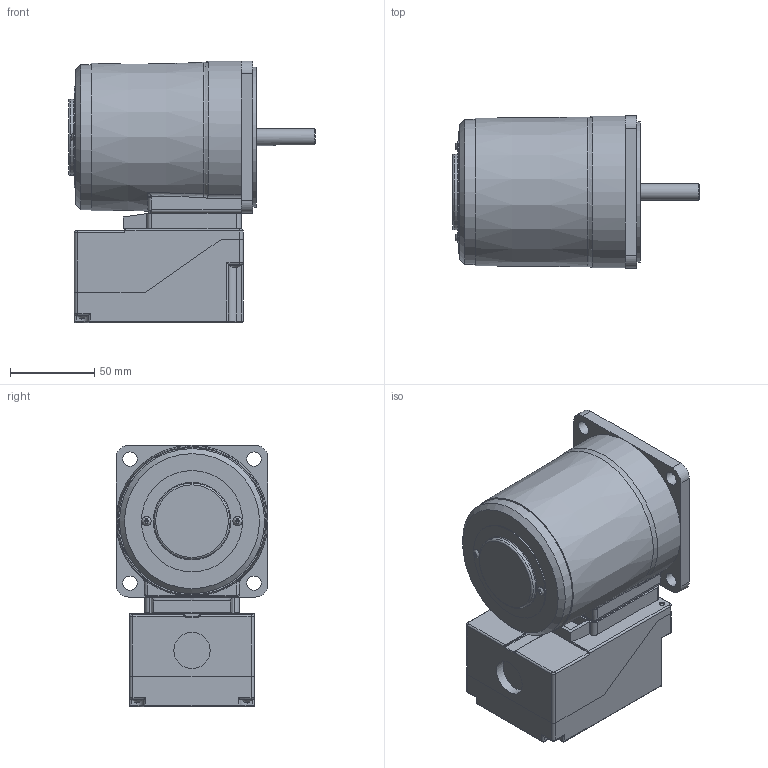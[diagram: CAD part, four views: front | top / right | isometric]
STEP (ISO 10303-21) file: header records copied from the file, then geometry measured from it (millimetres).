
FILE_DESCRIPTION(/* description */ (''),/* implementation_level */ '2;1');
FILE_NAME(/* name */ 'E:\도면작업\2016\0704) 미주향 SG 도면\3D MOTOR\TERMINAL BOX TYPE\REVERSIBLE TERMINAL BOX\SG9R40K_-T2.stp',/* time_stamp */ '2017-01-24T11:30:00+09:00',/* author */ ('jy-jung'),/* organization */ (''),/* preprocessor_version */ 'ST-DEVELOPER v15.6',/* originating_system */ 'Autodesk Inventor 2015',/* authorisation */ '');
FILE_SCHEMA (('AUTOMOTIVE_DESIGN { 1 0 10303 214 3 1 1 }'));
Length unit declared in the file: millimetre
Products named in the file (1): 부품1
Bounding box: 146.3 x 90 x 155 mm (x, y, z)
Volume: 792753 mm3; surface area: 134589.7 mm2
Topology: 1 solids, 8 shells, 903 faces, 2382 edges, 1522 vertices
Faces by surface type: plane 479, cylinder 301, bspline 53, torus 38, cone 20, sphere 12
Full cylindrical faces by diameter (mm): 2.5 x4, 3 x6, 3.2 x3, 3.4 x1, 3.5 x2, 4.2 x1, 4.5 x8, 5.5 x8, 5.6 x2, 6.9 x4, 8.5 x4, 10 x1, 21.5 x1, 40 x1, 43 x1, 45 x1, 60 x1, 83 x1, 86 x1
Entity records: 30027 total; most frequent: CARTESIAN_POINT 7229, DIRECTION 4505, ORIENTED_EDGE 4496, EDGE_CURVE 2248, AXIS2_PLACEMENT_3D 1588, VERTEX_POINT 1502, LINE 1329, VECTOR 1329
